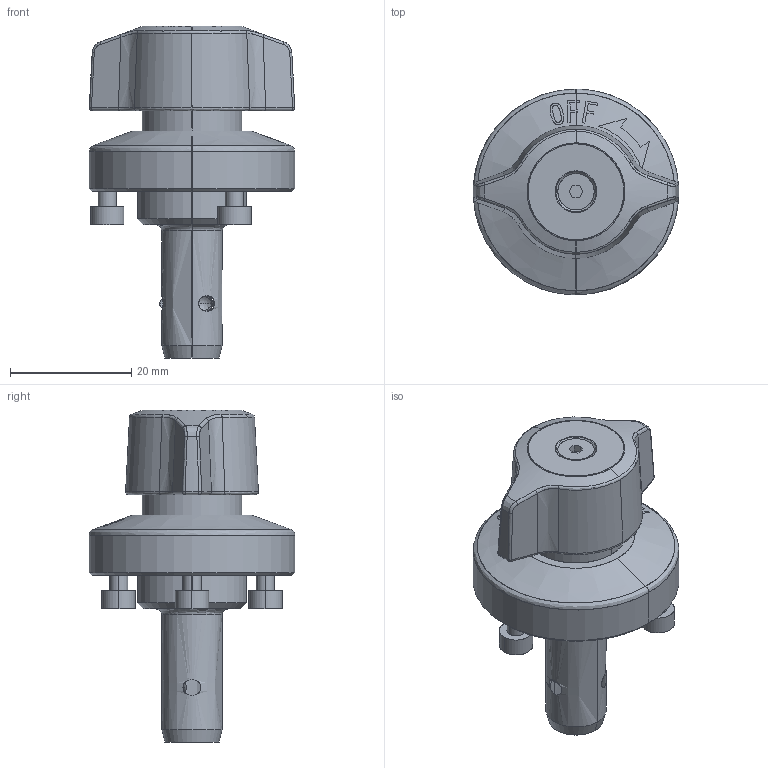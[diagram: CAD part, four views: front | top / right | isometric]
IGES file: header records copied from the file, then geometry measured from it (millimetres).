
Start section: SolidWorks IGES file using analytic representation for surfaces
Global section: file name: X:\11_SW2020-Inv2020\00_全2021-11新製品まで\q\QCWE1034-20-SUS\qcwe1034-20-sus.IGS; native system: SolidWorks 2020; preprocessor: SolidWorks 2020; author: ImaoCorp; date: 211021.172801; units: millimetre
Bounding box: 34 x 34 x 54.85 mm (x, y, z)
Surface area: 7399.7 mm2 (no closed solid volume)
Topology: 0 solids, 0 shells, 259 faces, 3374 edges, 3370 vertices
Faces by surface type: bspline 167, revolution 92
